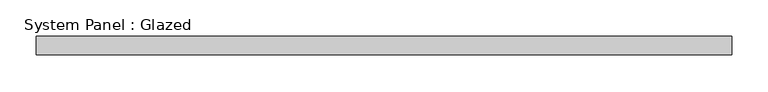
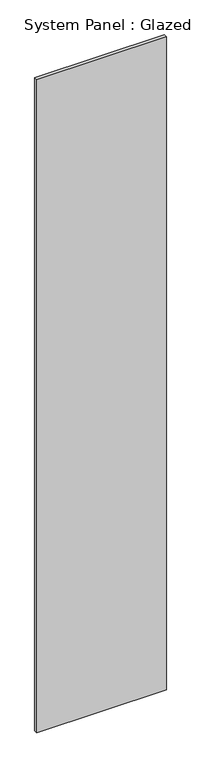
"""IFC4 building model written with IfcOpenShell, lengths in millimetres: plate geometry, System Panel : Glazed."""

from ifc_helpers import new_model, si_unit, origin, origin_with_axes, place, context, project, spatial, polyline, outline, extrude, source, transform, mapped, element, save


def system_panel_glazed_74924e97(model_context):
    return source(origin(), model_context, "Body", "SweptSolid", [
        extrude(outline(polyline([(476.8637841, -12.5), (-476.8637841, -12.5), (-476.8637841, 12.5), (476.8637841, 12.5), (476.8637841, -12.5)])), origin_with_axes(), (0.0, 0.0, 1.0), 5080.0),
    ])


if __name__ == "__main__":
    model = new_model("IFC4")
    model_context = context("Model", 3, world=origin())
    ifc_project = project(units=[si_unit("LENGTHUNIT", "METRE", prefix="MILLI")], contexts=[model_context])
    site = spatial("IfcSite", under=ifc_project)
    building = spatial("IfcBuilding", under=site)
    placement = place(None, origin())
    system_panel_glazed_shape = system_panel_glazed_74924e97(model_context)
    element("IfcPlate", 1, ObjectType="System Panel : Glazed", at=placement, inside=building, context=model_context, shape_type="MappedRepresentation", body=[
        mapped(system_panel_glazed_shape, transform((0.0, 0.0, 0.0), x_axis=(1.0, 0.0, 0.0), y_axis=(0.0, 1.0, 0.0), z_axis=(0.0, 0.0, 1.0))),
    ])
    save(model, "model.ifc")
